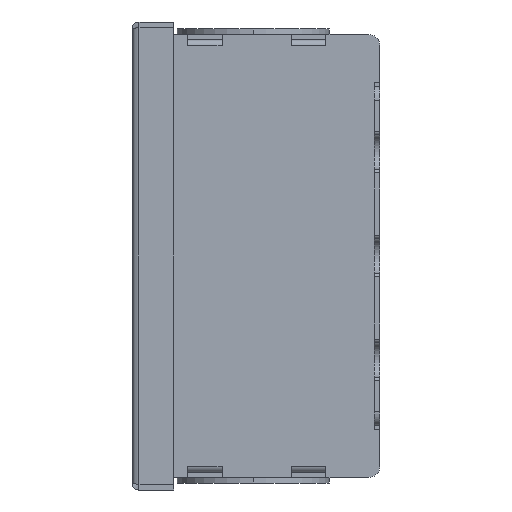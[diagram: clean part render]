
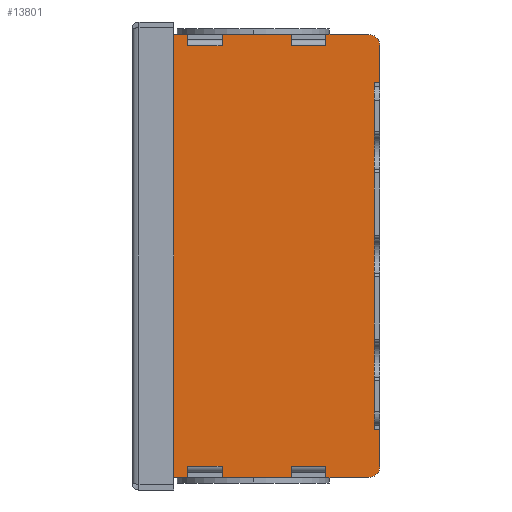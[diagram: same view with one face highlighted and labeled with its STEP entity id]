
A CAD part, left-side view. The second image highlights one B-rep face of the part: STEP entity #13801.
In plain terms, the highlighted planar face has unit normal (-1, 0, 0).
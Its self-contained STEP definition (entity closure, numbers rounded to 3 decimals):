
#11857=DIRECTION('',(0.,0.,-1.));
#11858=VECTOR('',#11857,49.);
#11859=CARTESIAN_POINT('',(-74.5,0.8,24.5));
#11860=LINE('',#11859,#11858);
#11864=DIRECTION('',(0.,0.,1.));
#11865=VECTOR('',#11864,0.5);
#11866=CARTESIAN_POINT('',(-74.5,0.8,-25.));
#11867=LINE('',#11866,#11865);
#11871=DIRECTION('',(0.,1.,0.));
#11872=VECTOR('',#11871,0.8);
#11873=CARTESIAN_POINT('',(-74.5,0.,-25.));
#11874=LINE('',#11873,#11872);
#11878=DIRECTION('',(0.,0.,1.));
#11879=VECTOR('',#11878,5.4);
#11880=CARTESIAN_POINT('',(-74.5,0.,-30.4));
#11881=LINE('',#11880,#11879);
#11885=CARTESIAN_POINT('',(-74.5,1.6,-30.4));
#11886=DIRECTION('',(-1.,0.,0.));
#11887=DIRECTION('',(0.,0.,-1.));
#11888=AXIS2_PLACEMENT_3D('',#11885,#11886,#11887);
#11893=DIRECTION('',(0.,-1.,0.));
#11894=VECTOR('',#11893,6.2);
#11895=CARTESIAN_POINT('',(-74.5,7.8,-32.));
#11896=LINE('',#11895,#11894);
#11900=DIRECTION('',(0.,-1.,0.));
#11901=VECTOR('',#11900,5.);
#11902=CARTESIAN_POINT('',(-74.5,12.8,-30.4));
#11903=LINE('',#11902,#11901);
#11907=DIRECTION('',(0.,-1.,0.));
#11908=VECTOR('',#11907,10.);
#11909=CARTESIAN_POINT('',(-74.5,22.8,-32.));
#11910=LINE('',#11909,#11908);
#11914=DIRECTION('',(0.,-1.,0.));
#11915=VECTOR('',#11914,5.);
#11916=CARTESIAN_POINT('',(-74.5,27.8,-30.4));
#11917=LINE('',#11916,#11915);
#11921=DIRECTION('',(0.,-1.,0.));
#11922=VECTOR('',#11921,7.2);
#11923=CARTESIAN_POINT('',(-74.5,35.,-32.));
#11924=LINE('',#11923,#11922);
#11928=DIRECTION('',(0.,0.,-1.));
#11929=VECTOR('',#11928,64.);
#11930=CARTESIAN_POINT('',(-74.5,35.,32.));
#11931=LINE('',#11930,#11929);
#11935=DIRECTION('',(0.,1.,0.));
#11936=VECTOR('',#11935,7.2);
#11937=CARTESIAN_POINT('',(-74.5,27.8,32.));
#11938=LINE('',#11937,#11936);
#11942=DIRECTION('',(0.,1.,0.));
#11943=VECTOR('',#11942,5.);
#11944=CARTESIAN_POINT('',(-74.5,22.8,30.4));
#11945=LINE('',#11944,#11943);
#11949=DIRECTION('',(0.,1.,0.));
#11950=VECTOR('',#11949,10.);
#11951=CARTESIAN_POINT('',(-74.5,12.8,32.));
#11952=LINE('',#11951,#11950);
#11956=DIRECTION('',(0.,1.,0.));
#11957=VECTOR('',#11956,5.);
#11958=CARTESIAN_POINT('',(-74.5,7.8,30.4));
#11959=LINE('',#11958,#11957);
#11963=DIRECTION('',(0.,1.,0.));
#11964=VECTOR('',#11963,6.2);
#11965=CARTESIAN_POINT('',(-74.5,1.6,32.));
#11966=LINE('',#11965,#11964);
#11970=CARTESIAN_POINT('',(-74.5,1.6,30.4));
#11971=DIRECTION('',(-1.,0.,0.));
#11972=DIRECTION('',(0.,-1.,0.));
#11973=AXIS2_PLACEMENT_3D('',#11970,#11971,#11972);
#11978=DIRECTION('',(0.,0.,1.));
#11979=VECTOR('',#11978,5.4);
#11980=CARTESIAN_POINT('',(-74.5,0.,25.));
#11981=LINE('',#11980,#11979);
#11985=DIRECTION('',(0.,1.,0.));
#11986=VECTOR('',#11985,0.8);
#11987=CARTESIAN_POINT('',(-74.5,0.,25.));
#11988=LINE('',#11987,#11986);
#11992=DIRECTION('',(0.,0.,1.));
#11993=VECTOR('',#11992,0.5);
#11994=CARTESIAN_POINT('',(-74.5,0.8,24.5));
#11995=LINE('',#11994,#11993);
#12601=DIRECTION('',(0.,0.,-1.));
#12602=VECTOR('',#12601,1.6);
#12603=CARTESIAN_POINT('',(-74.5,22.8,-30.4));
#12604=LINE('',#12603,#12602);
#12886=DIRECTION('',(0.,0.,1.));
#12887=VECTOR('',#12886,1.6);
#12888=CARTESIAN_POINT('',(-74.5,12.8,-32.));
#12889=LINE('',#12888,#12887);
#12907=DIRECTION('',(0.,0.,-1.));
#12908=VECTOR('',#12907,1.6);
#12909=CARTESIAN_POINT('',(-74.5,7.8,-30.4));
#12910=LINE('',#12909,#12908);
#12988=DIRECTION('',(0.,0.,-1.));
#12989=VECTOR('',#12988,1.6);
#12990=CARTESIAN_POINT('',(-74.5,22.8,32.));
#12991=LINE('',#12990,#12989);
#13044=DIRECTION('',(0.,0.,1.));
#13045=VECTOR('',#13044,1.6);
#13046=CARTESIAN_POINT('',(-74.5,27.8,30.4));
#13047=LINE('',#13046,#13045);
#13065=DIRECTION('',(0.,0.,1.));
#13066=VECTOR('',#13065,1.6);
#13067=CARTESIAN_POINT('',(-74.5,12.8,30.4));
#13068=LINE('',#13067,#13066);
#13169=DIRECTION('',(0.,0.,-1.));
#13170=VECTOR('',#13169,1.6);
#13171=CARTESIAN_POINT('',(-74.5,7.8,32.));
#13172=LINE('',#13171,#13170);
#13241=DIRECTION('',(0.,0.,1.));
#13242=VECTOR('',#13241,1.6);
#13243=CARTESIAN_POINT('',(-74.5,27.8,-32.));
#13244=LINE('',#13243,#13242);
#13267=CARTESIAN_POINT('',(-74.5,1.6,-32.));
#13268=CARTESIAN_POINT('',(-74.5,0.,-30.4));
#13269=VERTEX_POINT('',#13267);
#13270=VERTEX_POINT('',#13268);
#13271=CARTESIAN_POINT('',(-74.5,0.,30.4));
#13272=CARTESIAN_POINT('',(-74.5,1.6,32.));
#13273=VERTEX_POINT('',#13271);
#13274=VERTEX_POINT('',#13272);
#13275=CARTESIAN_POINT('',(-74.5,35.,32.));
#13276=CARTESIAN_POINT('',(-74.5,35.,-32.));
#13277=VERTEX_POINT('',#13275);
#13278=VERTEX_POINT('',#13276);
#13280=CARTESIAN_POINT('',(-74.5,27.8,32.));
#13282=VERTEX_POINT('',#13280);
#13284=CARTESIAN_POINT('',(-74.5,22.8,32.));
#13286=VERTEX_POINT('',#13284);
#13288=CARTESIAN_POINT('',(-74.5,12.8,32.));
#13290=VERTEX_POINT('',#13288);
#13292=CARTESIAN_POINT('',(-74.5,7.8,32.));
#13294=VERTEX_POINT('',#13292);
#13296=CARTESIAN_POINT('',(-74.5,22.8,-32.));
#13298=VERTEX_POINT('',#13296);
#13300=CARTESIAN_POINT('',(-74.5,27.8,-32.));
#13302=VERTEX_POINT('',#13300);
#13304=CARTESIAN_POINT('',(-74.5,7.8,-32.));
#13306=VERTEX_POINT('',#13304);
#13308=CARTESIAN_POINT('',(-74.5,12.8,-32.));
#13310=VERTEX_POINT('',#13308);
#13343=CARTESIAN_POINT('',(-74.5,22.8,30.4));
#13344=CARTESIAN_POINT('',(-74.5,27.8,30.4));
#13345=VERTEX_POINT('',#13343);
#13346=VERTEX_POINT('',#13344);
#13347=CARTESIAN_POINT('',(-74.5,7.8,30.4));
#13348=CARTESIAN_POINT('',(-74.5,12.8,30.4));
#13349=VERTEX_POINT('',#13347);
#13350=VERTEX_POINT('',#13348);
#13351=CARTESIAN_POINT('',(-74.5,27.8,-30.4));
#13352=CARTESIAN_POINT('',(-74.5,22.8,-30.4));
#13353=VERTEX_POINT('',#13351);
#13354=VERTEX_POINT('',#13352);
#13355=CARTESIAN_POINT('',(-74.5,12.8,-30.4));
#13356=CARTESIAN_POINT('',(-74.5,7.8,-30.4));
#13357=VERTEX_POINT('',#13355);
#13358=VERTEX_POINT('',#13356);
#13427=CARTESIAN_POINT('',(-74.5,0.,-25.));
#13428=VERTEX_POINT('',#13427);
#13429=CARTESIAN_POINT('',(-74.5,0.,25.));
#13430=VERTEX_POINT('',#13429);
#13435=CARTESIAN_POINT('',(-74.5,0.8,25.));
#13436=VERTEX_POINT('',#13435);
#13437=CARTESIAN_POINT('',(-74.5,0.8,-25.));
#13438=VERTEX_POINT('',#13437);
#13463=CARTESIAN_POINT('',(-74.5,0.8,24.5));
#13464=CARTESIAN_POINT('',(-74.5,0.8,-24.5));
#13465=VERTEX_POINT('',#13463);
#13466=VERTEX_POINT('',#13464);
#13741=CARTESIAN_POINT('',(-74.5,0.,0.));
#13742=DIRECTION('',(-1.,0.,0.));
#13743=DIRECTION('',(0.,0.,1.));
#13744=AXIS2_PLACEMENT_3D('',#13741,#13742,#13743);
#13745=PLANE('',#13744);
#13746=ORIENTED_EDGE('',*,*,#13635,.T.);
#13747=ORIENTED_EDGE('',*,*,#13729,.F.);
#13749=ORIENTED_EDGE('',*,*,#13748,.F.);
#13751=ORIENTED_EDGE('',*,*,#13750,.F.);
#13753=ORIENTED_EDGE('',*,*,#13752,.F.);
#13755=ORIENTED_EDGE('',*,*,#13754,.F.);
#13757=ORIENTED_EDGE('',*,*,#13756,.F.);
#13759=ORIENTED_EDGE('',*,*,#13758,.F.);
#13761=ORIENTED_EDGE('',*,*,#13760,.F.);
#13763=ORIENTED_EDGE('',*,*,#13762,.F.);
#13765=ORIENTED_EDGE('',*,*,#13764,.F.);
#13767=ORIENTED_EDGE('',*,*,#13766,.F.);
#13769=ORIENTED_EDGE('',*,*,#13768,.F.);
#13771=ORIENTED_EDGE('',*,*,#13770,.F.);
#13773=ORIENTED_EDGE('',*,*,#13772,.F.);
#13775=ORIENTED_EDGE('',*,*,#13774,.F.);
#13777=ORIENTED_EDGE('',*,*,#13776,.F.);
#13779=ORIENTED_EDGE('',*,*,#13778,.F.);
#13781=ORIENTED_EDGE('',*,*,#13780,.F.);
#13783=ORIENTED_EDGE('',*,*,#13782,.F.);
#13785=ORIENTED_EDGE('',*,*,#13784,.F.);
#13787=ORIENTED_EDGE('',*,*,#13786,.F.);
#13789=ORIENTED_EDGE('',*,*,#13788,.F.);
#13791=ORIENTED_EDGE('',*,*,#13790,.F.);
#13793=ORIENTED_EDGE('',*,*,#13792,.F.);
#13795=ORIENTED_EDGE('',*,*,#13794,.F.);
#13797=ORIENTED_EDGE('',*,*,#13796,.T.);
#13798=ORIENTED_EDGE('',*,*,#13702,.F.);
#13799=EDGE_LOOP('',(#13746,#13747,#13749,#13751,#13753,#13755,#13757,#13759,
#13761,#13763,#13765,#13767,#13769,#13771,#13773,#13775,#13777,#13779,#13781,
#13783,#13785,#13787,#13789,#13791,#13793,#13795,#13797,#13798));
#13800=FACE_OUTER_BOUND('',#13799,.F.);
#13801=ADVANCED_FACE('',(#13800),#13745,.T.);
#11889=CIRCLE('',#11888,1.6);
#11974=CIRCLE('',#11973,1.6);
#13635=EDGE_CURVE('',#13465,#13466,#11860,.T.);
#13702=EDGE_CURVE('',#13465,#13436,#11995,.T.);
#13729=EDGE_CURVE('',#13438,#13466,#11867,.T.);
#13748=EDGE_CURVE('',#13428,#13438,#11874,.T.);
#13750=EDGE_CURVE('',#13270,#13428,#11881,.T.);
#13752=EDGE_CURVE('',#13269,#13270,#11889,.T.);
#13754=EDGE_CURVE('',#13306,#13269,#11896,.T.);
#13756=EDGE_CURVE('',#13358,#13306,#12910,.T.);
#13758=EDGE_CURVE('',#13357,#13358,#11903,.T.);
#13760=EDGE_CURVE('',#13310,#13357,#12889,.T.);
#13762=EDGE_CURVE('',#13298,#13310,#11910,.T.);
#13764=EDGE_CURVE('',#13354,#13298,#12604,.T.);
#13766=EDGE_CURVE('',#13353,#13354,#11917,.T.);
#13768=EDGE_CURVE('',#13302,#13353,#13244,.T.);
#13770=EDGE_CURVE('',#13278,#13302,#11924,.T.);
#13772=EDGE_CURVE('',#13277,#13278,#11931,.T.);
#13774=EDGE_CURVE('',#13282,#13277,#11938,.T.);
#13776=EDGE_CURVE('',#13346,#13282,#13047,.T.);
#13778=EDGE_CURVE('',#13345,#13346,#11945,.T.);
#13780=EDGE_CURVE('',#13286,#13345,#12991,.T.);
#13782=EDGE_CURVE('',#13290,#13286,#11952,.T.);
#13784=EDGE_CURVE('',#13350,#13290,#13068,.T.);
#13786=EDGE_CURVE('',#13349,#13350,#11959,.T.);
#13788=EDGE_CURVE('',#13294,#13349,#13172,.T.);
#13790=EDGE_CURVE('',#13274,#13294,#11966,.T.);
#13792=EDGE_CURVE('',#13273,#13274,#11974,.T.);
#13794=EDGE_CURVE('',#13430,#13273,#11981,.T.);
#13796=EDGE_CURVE('',#13430,#13436,#11988,.T.);
